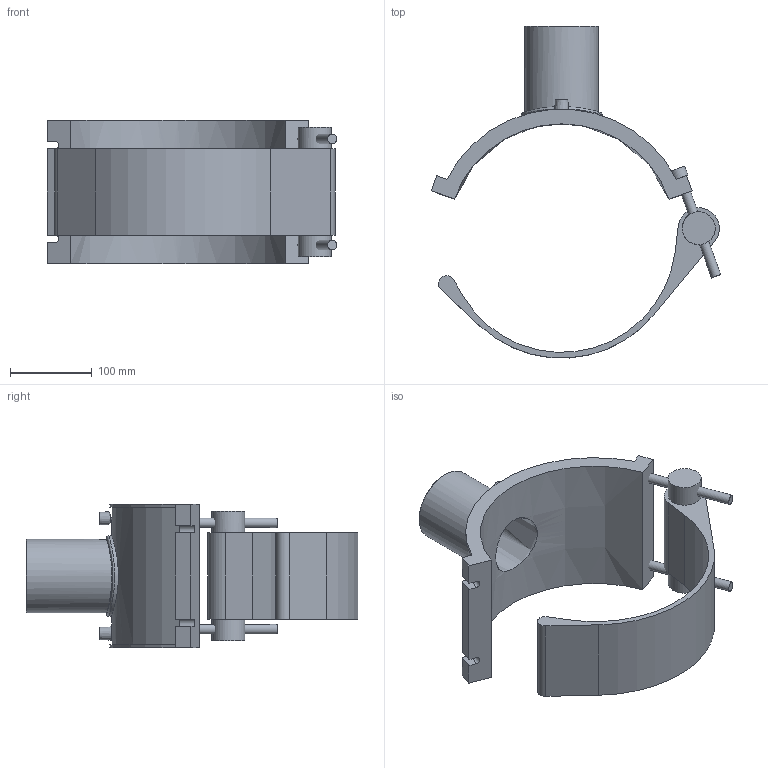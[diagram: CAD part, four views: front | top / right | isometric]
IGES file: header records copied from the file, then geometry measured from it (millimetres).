
Global section: file name: 495804280090.ipt; native system: Autodesk Inventor 2015; preprocessor: unknown; author: KIM; date: 20180426.120913; units: millimetre
Bounding box: 354.66 x 406.69 x 176 mm (x, y, z)
Volume: 2028759.6 mm3; surface area: 344667.2 mm2
Topology: 5 solids, 5 shells, 65 faces, 135 edges, 91 vertices
Faces by surface type: plane 37, cylinder 17, revolution 7, cone 3, bspline 1
Full cylindrical faces by diameter (mm): 4 x2, 11.76 x2, 19.6 x2, 40.32 x2, 90 x1, 99 x1
